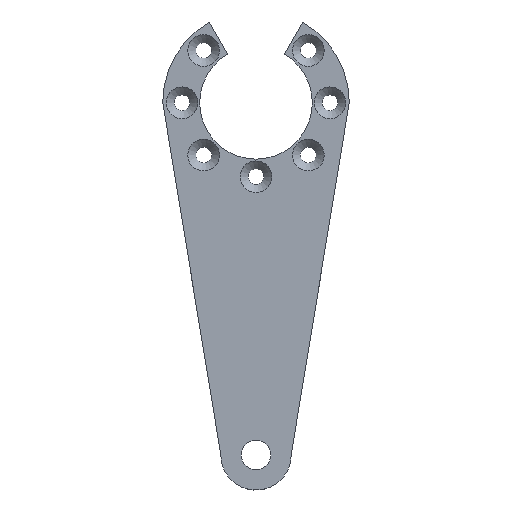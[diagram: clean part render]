
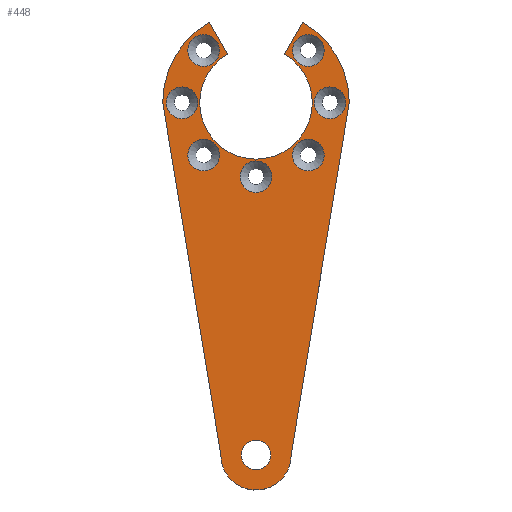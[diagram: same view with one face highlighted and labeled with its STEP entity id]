
A CAD part, top view. The second image highlights one B-rep face of the part: STEP entity #448.
In plain terms, the highlighted planar face has unit normal (0, 0, 1).
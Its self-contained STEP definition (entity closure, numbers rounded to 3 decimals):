
#20=LINE('',#712,#36);
#24=LINE('',#724,#40);
#28=LINE('',#736,#44);
#32=LINE('',#748,#48);
#36=VECTOR('',#591,101.151);
#40=VECTOR('',#603,10.5);
#44=VECTOR('',#615,10.5);
#48=VECTOR('',#627,101.151);
#55=PLANE('',#506);
#91=FACE_BOUND('',#172,.T.);
#92=FACE_BOUND('',#173,.T.);
#93=FACE_BOUND('',#174,.T.);
#94=FACE_BOUND('',#175,.T.);
#95=FACE_BOUND('',#176,.T.);
#96=FACE_BOUND('',#177,.T.);
#97=FACE_BOUND('',#178,.T.);
#98=FACE_BOUND('',#179,.T.);
#123=FACE_OUTER_BOUND('',#171,.T.);
#171=EDGE_LOOP('',(#375,#376,#377,#378,#379,#380,#381,#382));
#172=EDGE_LOOP('',(#383));
#173=EDGE_LOOP('',(#384));
#174=EDGE_LOOP('',(#385));
#175=EDGE_LOOP('',(#386));
#176=EDGE_LOOP('',(#387));
#177=EDGE_LOOP('',(#388));
#178=EDGE_LOOP('',(#389));
#179=EDGE_LOOP('',(#390));
#180=CIRCLE('',#452,4.5);
#183=CIRCLE('',#457,4.5);
#186=CIRCLE('',#462,4.5);
#189=CIRCLE('',#467,4.5);
#192=CIRCLE('',#472,4.5);
#195=CIRCLE('',#477,4.5);
#198=CIRCLE('',#482,4.5);
#202=CIRCLE('',#488,4.188);
#204=CIRCLE('',#492,26.5);
#206=CIRCLE('',#496,16.);
#208=CIRCLE('',#500,26.5);
#210=CIRCLE('',#504,10.);
#211=VERTEX_POINT('',#645);
#214=VERTEX_POINT('',#653);
#217=VERTEX_POINT('',#661);
#220=VERTEX_POINT('',#669);
#223=VERTEX_POINT('',#677);
#226=VERTEX_POINT('',#685);
#229=VERTEX_POINT('',#693);
#233=VERTEX_POINT('',#703);
#236=VERTEX_POINT('',#709);
#237=VERTEX_POINT('',#711);
#239=VERTEX_POINT('',#717);
#241=VERTEX_POINT('',#723);
#243=VERTEX_POINT('',#729);
#245=VERTEX_POINT('',#735);
#247=VERTEX_POINT('',#741);
#249=VERTEX_POINT('',#747);
#250=EDGE_CURVE('',#211,#211,#180,.T.);
#253=EDGE_CURVE('',#214,#214,#183,.T.);
#256=EDGE_CURVE('',#217,#217,#186,.T.);
#259=EDGE_CURVE('',#220,#220,#189,.T.);
#262=EDGE_CURVE('',#223,#223,#192,.T.);
#265=EDGE_CURVE('',#226,#226,#195,.T.);
#268=EDGE_CURVE('',#229,#229,#198,.T.);
#272=EDGE_CURVE('',#233,#233,#202,.T.);
#275=EDGE_CURVE('',#237,#236,#20,.T.);
#278=EDGE_CURVE('',#239,#237,#204,.T.);
#281=EDGE_CURVE('',#241,#239,#24,.T.);
#284=EDGE_CURVE('',#243,#241,#206,.T.);
#287=EDGE_CURVE('',#245,#243,#28,.T.);
#290=EDGE_CURVE('',#247,#245,#208,.T.);
#293=EDGE_CURVE('',#249,#247,#32,.T.);
#296=EDGE_CURVE('',#236,#249,#210,.T.);
#375=ORIENTED_EDGE('',*,*,#296,.T.);
#376=ORIENTED_EDGE('',*,*,#293,.T.);
#377=ORIENTED_EDGE('',*,*,#290,.T.);
#378=ORIENTED_EDGE('',*,*,#287,.T.);
#379=ORIENTED_EDGE('',*,*,#284,.T.);
#380=ORIENTED_EDGE('',*,*,#281,.T.);
#381=ORIENTED_EDGE('',*,*,#278,.T.);
#382=ORIENTED_EDGE('',*,*,#275,.T.);
#383=ORIENTED_EDGE('',*,*,#250,.T.);
#384=ORIENTED_EDGE('',*,*,#253,.T.);
#385=ORIENTED_EDGE('',*,*,#256,.T.);
#386=ORIENTED_EDGE('',*,*,#259,.T.);
#387=ORIENTED_EDGE('',*,*,#262,.T.);
#388=ORIENTED_EDGE('',*,*,#265,.T.);
#389=ORIENTED_EDGE('',*,*,#268,.T.);
#390=ORIENTED_EDGE('',*,*,#272,.T.);
#448=ADVANCED_FACE('',(#123,#91,#92,#93,#94,#95,#96,#97,#98),#55,.T.);
#452=AXIS2_PLACEMENT_3D('',#646,#513,#514);
#457=AXIS2_PLACEMENT_3D('',#654,#523,#524);
#462=AXIS2_PLACEMENT_3D('',#662,#533,#534);
#467=AXIS2_PLACEMENT_3D('',#670,#543,#544);
#472=AXIS2_PLACEMENT_3D('',#678,#553,#554);
#477=AXIS2_PLACEMENT_3D('',#686,#563,#564);
#482=AXIS2_PLACEMENT_3D('',#694,#573,#574);
#488=AXIS2_PLACEMENT_3D('',#704,#585,#586);
#492=AXIS2_PLACEMENT_3D('',#718,#597,#598);
#496=AXIS2_PLACEMENT_3D('',#730,#609,#610);
#500=AXIS2_PLACEMENT_3D('',#742,#621,#622);
#504=AXIS2_PLACEMENT_3D('',#752,#633,#634);
#506=AXIS2_PLACEMENT_3D('',#754,#637,#638);
#513=DIRECTION('center_axis',(0.,0.,-1.));
#514=DIRECTION('ref_axis',(1.,0.,0.));
#523=DIRECTION('center_axis',(0.,0.,-1.));
#524=DIRECTION('ref_axis',(1.,0.,0.));
#533=DIRECTION('center_axis',(0.,0.,-1.));
#534=DIRECTION('ref_axis',(1.,0.,0.));
#543=DIRECTION('center_axis',(0.,0.,-1.));
#544=DIRECTION('ref_axis',(1.,0.,0.));
#553=DIRECTION('center_axis',(0.,0.,-1.));
#554=DIRECTION('ref_axis',(1.,0.,0.));
#563=DIRECTION('center_axis',(0.,0.,-1.));
#564=DIRECTION('ref_axis',(1.,0.,0.));
#573=DIRECTION('center_axis',(0.,0.,-1.));
#574=DIRECTION('ref_axis',(1.,0.,0.));
#585=DIRECTION('center_axis',(0.,0.,-1.));
#586=DIRECTION('ref_axis',(1.,0.,0.));
#591=DIRECTION('',(0.163,-0.987,0.));
#597=DIRECTION('center_axis',(0.,0.,1.));
#598=DIRECTION('ref_axis',(0.5,-0.866,0.));
#603=DIRECTION('',(-0.5,0.866,0.));
#609=DIRECTION('center_axis',(0.,0.,-1.));
#610=DIRECTION('ref_axis',(-0.5,0.866,0.));
#615=DIRECTION('',(-0.5,-0.866,0.));
#621=DIRECTION('center_axis',(0.,0.,1.));
#622=DIRECTION('ref_axis',(-1.,0.,0.));
#627=DIRECTION('',(0.163,0.987,0.));
#633=DIRECTION('center_axis',(0.,0.,1.));
#634=DIRECTION('ref_axis',(1.,-0.02,0.));
#637=DIRECTION('center_axis',(0.,0.,1.));
#638=DIRECTION('ref_axis',(1.,0.,0.));
#645=CARTESIAN_POINT('',(21.709,33.691,2.));
#646=CARTESIAN_POINT('Origin',(17.209,33.691,2.));
#653=CARTESIAN_POINT('',(0.709,12.691,2.));
#654=CARTESIAN_POINT('Origin',(-3.791,12.691,2.));
#661=CARTESIAN_POINT('',(-20.291,33.691,2.));
#662=CARTESIAN_POINT('Origin',(-24.791,33.691,2.));
#669=CARTESIAN_POINT('',(-14.141,48.54,2.));
#670=CARTESIAN_POINT('Origin',(-18.641,48.54,2.));
#677=CARTESIAN_POINT('',(-14.141,18.842,2.));
#678=CARTESIAN_POINT('Origin',(-18.641,18.842,2.));
#685=CARTESIAN_POINT('',(15.558,18.842,2.));
#686=CARTESIAN_POINT('Origin',(11.058,18.842,2.));
#693=CARTESIAN_POINT('',(15.558,48.54,2.));
#694=CARTESIAN_POINT('Origin',(11.058,48.54,2.));
#703=CARTESIAN_POINT('',(0.397,-66.309,2.));
#704=CARTESIAN_POINT('Origin',(-3.791,-66.309,2.));
#709=CARTESIAN_POINT('',(-13.789,-66.104,2.));
#711=CARTESIAN_POINT('',(-30.291,33.691,2.));
#712=CARTESIAN_POINT('',(-13.789,-66.104,2.));
#717=CARTESIAN_POINT('',(-17.041,56.641,2.));
#718=CARTESIAN_POINT('Origin',(-3.791,33.691,2.));
#723=CARTESIAN_POINT('',(-11.791,47.547,2.));
#724=CARTESIAN_POINT('',(-17.041,56.641,2.));
#729=CARTESIAN_POINT('',(4.209,47.547,2.));
#730=CARTESIAN_POINT('Origin',(-3.791,33.691,2.));
#735=CARTESIAN_POINT('',(9.459,56.641,2.));
#736=CARTESIAN_POINT('',(4.209,47.547,2.));
#741=CARTESIAN_POINT('',(22.709,33.691,2.));
#742=CARTESIAN_POINT('Origin',(-3.791,33.691,2.));
#747=CARTESIAN_POINT('',(6.206,-66.104,2.));
#748=CARTESIAN_POINT('',(22.709,33.691,2.));
#752=CARTESIAN_POINT('Origin',(-3.791,-66.309,2.));
#754=CARTESIAN_POINT('Origin',(-3.791,-0.18,2.));
